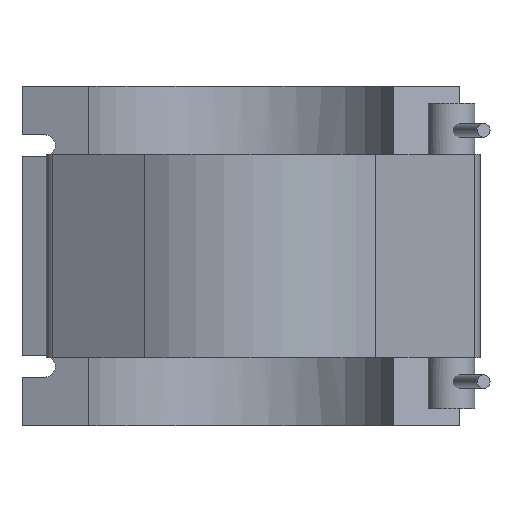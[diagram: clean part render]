
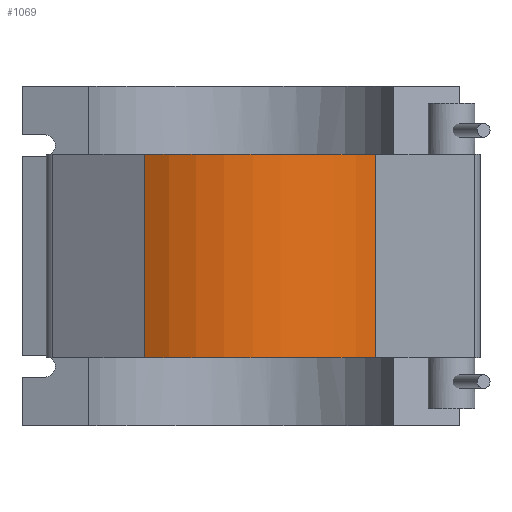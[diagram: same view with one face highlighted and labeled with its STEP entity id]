
A CAD part, front view. The second image highlights one B-rep face of the part: STEP entity #1069.
In plain terms, the highlighted cylindrical face has radius 88.2 mm (diameter 176.4 mm), a partial arc.
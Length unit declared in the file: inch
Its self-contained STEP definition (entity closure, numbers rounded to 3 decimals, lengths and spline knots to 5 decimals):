
#70=CYLINDRICAL_SURFACE('',#1204,3.47244);
#122=CIRCLE('',#1205,3.47244);
#123=CIRCLE('',#1206,3.47244);
#185=FACE_OUTER_BOUND('',#262,.T.);
#262=EDGE_LOOP('',(#927,#928,#929,#930));
#338=LINE('',#2244,#418);
#339=LINE('',#2248,#419);
#418=VECTOR('',#1494,0.3937);
#419=VECTOR('',#1497,0.3937);
#520=VERTEX_POINT('',#2242);
#521=VERTEX_POINT('',#2243);
#522=VERTEX_POINT('',#2245);
#523=VERTEX_POINT('',#2247);
#659=EDGE_CURVE('',#520,#521,#338,.T.);
#660=EDGE_CURVE('',#522,#520,#122,.T.);
#661=EDGE_CURVE('',#523,#522,#339,.T.);
#662=EDGE_CURVE('',#521,#523,#123,.T.);
#927=ORIENTED_EDGE('',*,*,#659,.F.);
#928=ORIENTED_EDGE('',*,*,#660,.F.);
#929=ORIENTED_EDGE('',*,*,#661,.F.);
#930=ORIENTED_EDGE('',*,*,#662,.F.);
#1069=ADVANCED_FACE('',(#185),#70,.T.);
#1204=AXIS2_PLACEMENT_3D('',#2241,#1492,#1493);
#1205=AXIS2_PLACEMENT_3D('',#2246,#1495,#1496);
#1206=AXIS2_PLACEMENT_3D('',#2249,#1498,#1499);
#1492=DIRECTION('center_axis',(0.,0.,1.));
#1493=DIRECTION('ref_axis',(-1.,0.,0.));
#1494=DIRECTION('',(0.,0.,-1.));
#1495=DIRECTION('center_axis',(0.,0.,1.));
#1496=DIRECTION('ref_axis',(-1.,0.,0.));
#1497=DIRECTION('',(0.,0.,1.));
#1498=DIRECTION('center_axis',(0.,0.,-1.));
#1499=DIRECTION('ref_axis',(-1.,0.,0.));
#2241=CARTESIAN_POINT('Origin',(0.,0.,0.));
#2242=CARTESIAN_POINT('',(2.75414,-2.11485,2.079));
#2243=CARTESIAN_POINT('',(2.75414,-2.11485,-2.079));
#2244=CARTESIAN_POINT('',(2.75414,-2.11485,0.));
#2245=CARTESIAN_POINT('',(-1.96593,-2.86234,2.079));
#2246=CARTESIAN_POINT('Origin',(0.,0.,2.079));
#2247=CARTESIAN_POINT('',(-1.96593,-2.86234,-2.079));
#2248=CARTESIAN_POINT('',(-1.96593,-2.86234,0.));
#2249=CARTESIAN_POINT('Origin',(0.,0.,-2.079));
